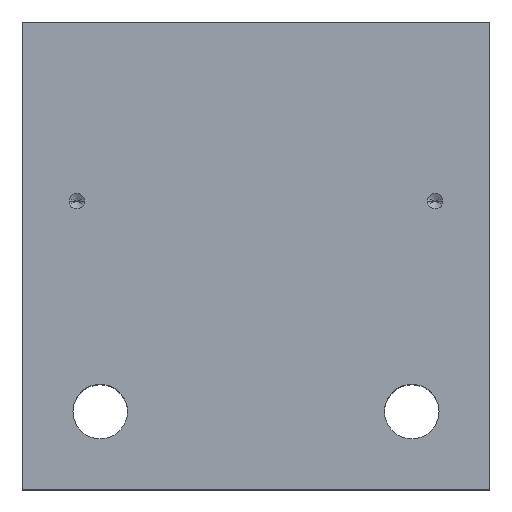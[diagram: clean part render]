
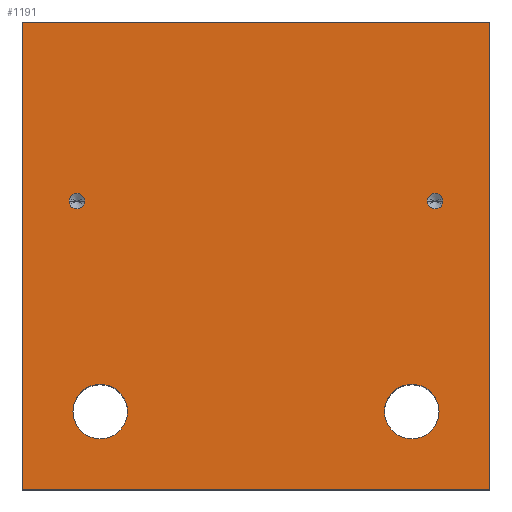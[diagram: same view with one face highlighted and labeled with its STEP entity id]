
A CAD part, top view. The second image highlights one B-rep face of the part: STEP entity #1191.
In plain terms, the highlighted planar face has unit normal (0, 0, 1).
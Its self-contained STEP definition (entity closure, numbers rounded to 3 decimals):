
#19=DIRECTION('',(0.,-1.,0.));
#20=VECTOR('',#19,60.);
#21=CARTESIAN_POINT('',(0.,60.,0.));
#22=LINE('',#21,#20);
#27=DIRECTION('',(-1.,0.,0.));
#28=VECTOR('',#27,60.);
#29=CARTESIAN_POINT('',(60.,60.,0.));
#30=LINE('',#29,#28);
#34=DIRECTION('',(0.,1.,0.));
#35=VECTOR('',#34,60.);
#36=CARTESIAN_POINT('',(60.,0.,0.));
#37=LINE('',#36,#35);
#41=DIRECTION('',(1.,0.,0.));
#42=VECTOR('',#41,60.);
#43=CARTESIAN_POINT('',(0.,0.,0.));
#44=LINE('',#43,#42);
#48=CARTESIAN_POINT('',(10.,10.,0.));
#49=DIRECTION('',(0.,0.,-1.));
#50=DIRECTION('',(-1.,0.,0.));
#51=AXIS2_PLACEMENT_3D('',#48,#49,#50);
#56=CARTESIAN_POINT('',(10.,10.,0.));
#57=DIRECTION('',(0.,0.,-1.));
#58=DIRECTION('',(1.,0.,0.));
#59=AXIS2_PLACEMENT_3D('',#56,#57,#58);
#64=CARTESIAN_POINT('',(50.,10.,0.));
#65=DIRECTION('',(0.,0.,-1.));
#66=DIRECTION('',(-1.,0.,0.));
#67=AXIS2_PLACEMENT_3D('',#64,#65,#66);
#72=CARTESIAN_POINT('',(50.,10.,0.));
#73=DIRECTION('',(0.,0.,-1.));
#74=DIRECTION('',(1.,0.,0.));
#75=AXIS2_PLACEMENT_3D('',#72,#73,#74);
#80=CARTESIAN_POINT('',(7.,37.,0.));
#81=DIRECTION('',(0.,0.,1.));
#82=DIRECTION('',(-1.,0.,0.));
#83=AXIS2_PLACEMENT_3D('',#80,#81,#82);
#88=CARTESIAN_POINT('',(7.,37.,0.));
#89=DIRECTION('',(0.,0.,1.));
#90=DIRECTION('',(1.,0.,0.));
#91=AXIS2_PLACEMENT_3D('',#88,#89,#90);
#96=CARTESIAN_POINT('',(53.,37.,0.));
#97=DIRECTION('',(0.,0.,1.));
#98=DIRECTION('',(-1.,0.,0.));
#99=AXIS2_PLACEMENT_3D('',#96,#97,#98);
#104=CARTESIAN_POINT('',(53.,37.,0.));
#105=DIRECTION('',(0.,0.,1.));
#106=DIRECTION('',(1.,0.,0.));
#107=AXIS2_PLACEMENT_3D('',#104,#105,#106);
#1014=CARTESIAN_POINT('',(0.,60.,0.));
#1015=CARTESIAN_POINT('',(0.,0.,0.));
#1016=VERTEX_POINT('',#1014);
#1017=VERTEX_POINT('',#1015);
#1018=CARTESIAN_POINT('',(60.,0.,0.));
#1019=VERTEX_POINT('',#1018);
#1020=CARTESIAN_POINT('',(60.,60.,0.));
#1021=VERTEX_POINT('',#1020);
#1030=CARTESIAN_POINT('',(6.5,10.,0.));
#1031=CARTESIAN_POINT('',(13.5,10.,0.));
#1032=VERTEX_POINT('',#1030);
#1033=VERTEX_POINT('',#1031);
#1038=CARTESIAN_POINT('',(46.5,10.,0.));
#1039=CARTESIAN_POINT('',(53.5,10.,0.));
#1040=VERTEX_POINT('',#1038);
#1041=VERTEX_POINT('',#1039);
#1076=CARTESIAN_POINT('',(6.,37.,0.));
#1077=VERTEX_POINT('',#1076);
#1078=CARTESIAN_POINT('',(8.,37.,0.));
#1079=VERTEX_POINT('',#1078);
#1086=CARTESIAN_POINT('',(52.,37.,0.));
#1087=CARTESIAN_POINT('',(54.,37.,0.));
#1088=VERTEX_POINT('',#1086);
#1089=VERTEX_POINT('',#1087);
#1152=CARTESIAN_POINT('',(0.,0.,0.));
#1153=DIRECTION('',(0.,0.,1.));
#1154=DIRECTION('',(1.,0.,0.));
#1155=AXIS2_PLACEMENT_3D('',#1152,#1153,#1154);
#1156=PLANE('',#1155);
#1158=ORIENTED_EDGE('',*,*,#1157,.F.);
#1160=ORIENTED_EDGE('',*,*,#1159,.F.);
#1162=ORIENTED_EDGE('',*,*,#1161,.F.);
#1164=ORIENTED_EDGE('',*,*,#1163,.F.);
#1165=EDGE_LOOP('',(#1158,#1160,#1162,#1164));
#1166=FACE_OUTER_BOUND('',#1165,.F.);
#1168=ORIENTED_EDGE('',*,*,#1167,.F.);
#1170=ORIENTED_EDGE('',*,*,#1169,.F.);
#1171=EDGE_LOOP('',(#1168,#1170));
#1172=FACE_BOUND('',#1171,.F.);
#1174=ORIENTED_EDGE('',*,*,#1173,.F.);
#1176=ORIENTED_EDGE('',*,*,#1175,.F.);
#1177=EDGE_LOOP('',(#1174,#1176));
#1178=FACE_BOUND('',#1177,.F.);
#1180=ORIENTED_EDGE('',*,*,#1179,.T.);
#1182=ORIENTED_EDGE('',*,*,#1181,.T.);
#1183=EDGE_LOOP('',(#1180,#1182));
#1184=FACE_BOUND('',#1183,.F.);
#1186=ORIENTED_EDGE('',*,*,#1185,.T.);
#1188=ORIENTED_EDGE('',*,*,#1187,.T.);
#1189=EDGE_LOOP('',(#1186,#1188));
#1190=FACE_BOUND('',#1189,.F.);
#52=CIRCLE('',#51,3.5);
#60=CIRCLE('',#59,3.5);
#68=CIRCLE('',#67,3.5);
#76=CIRCLE('',#75,3.5);
#84=CIRCLE('',#83,1.);
#92=CIRCLE('',#91,1.);
#100=CIRCLE('',#99,1.);
#108=CIRCLE('',#107,1.);
#1157=EDGE_CURVE('',#1016,#1017,#22,.T.);
#1159=EDGE_CURVE('',#1021,#1016,#30,.T.);
#1161=EDGE_CURVE('',#1019,#1021,#37,.T.);
#1163=EDGE_CURVE('',#1017,#1019,#44,.T.);
#1167=EDGE_CURVE('',#1032,#1033,#52,.T.);
#1169=EDGE_CURVE('',#1033,#1032,#60,.T.);
#1173=EDGE_CURVE('',#1040,#1041,#68,.T.);
#1175=EDGE_CURVE('',#1041,#1040,#76,.T.);
#1179=EDGE_CURVE('',#1077,#1079,#84,.T.);
#1181=EDGE_CURVE('',#1079,#1077,#92,.T.);
#1185=EDGE_CURVE('',#1088,#1089,#100,.T.);
#1187=EDGE_CURVE('',#1089,#1088,#108,.T.);
#1191=ADVANCED_FACE('',(#1166,#1172,#1178,#1184,#1190),#1156,.T.);
